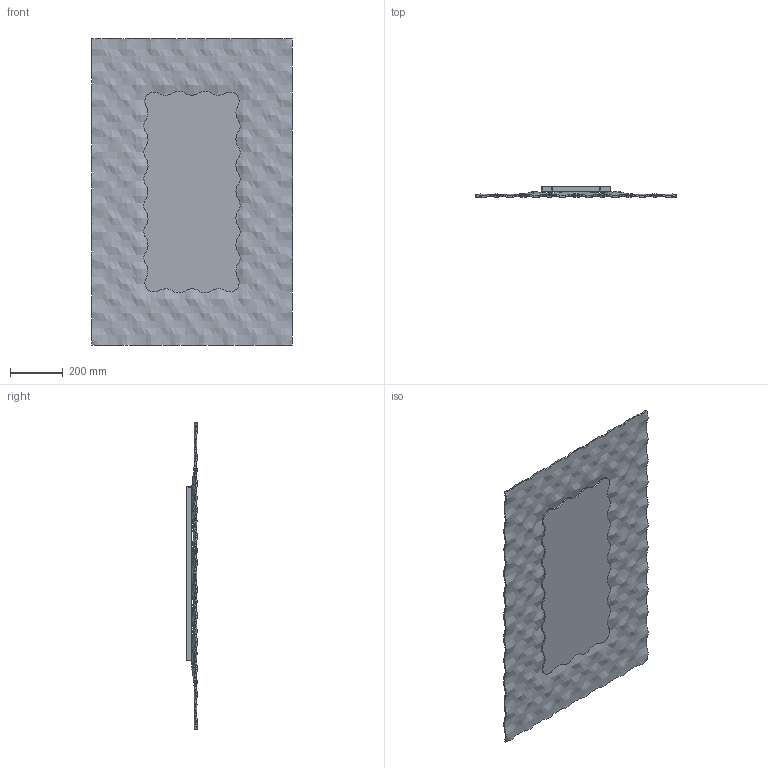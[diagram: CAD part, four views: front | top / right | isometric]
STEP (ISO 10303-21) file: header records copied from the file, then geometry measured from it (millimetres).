
FILE_DESCRIPTION(/* description */ (''),/* implementation_level */ '2;1');
FILE_NAME(/* name */ 'POP_76x116',/* time_stamp */ '2025-02-21T18:18:21+01:00',/* author */ (''),/* organization */ (''),/* preprocessor_version */ 'ST-DEVELOPER v16.5',/* originating_system */ '',/* authorisation */ '');
FILE_SCHEMA (('AUTOMOTIVE_DESIGN'));
Length unit declared in the file: millimetre
Products named in the file (1): Document
Bounding box: 762.04 x 42.1 x 1161.95 mm (x, y, z)
Volume: 6610943.4 mm3; surface area: 2721405 mm2
Topology: 8 solids, 8 shells, 100 faces, 240 edges, 160 vertices
Faces by surface type: plane 50, bspline 50
Entity records: 130111 total; most frequent: CARTESIAN_POINT 128605, ORIENTED_EDGE 480, EDGE_CURVE 240, VERTEX_POINT 160, EDGE_LOOP 108, B_SPLINE_CURVE_WITH_KNOTS 108, ADVANCED_FACE 100, FACE_OUTER_BOUND 100
